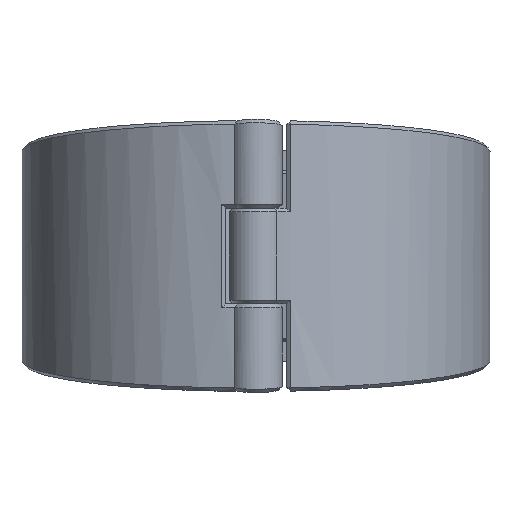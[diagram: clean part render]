
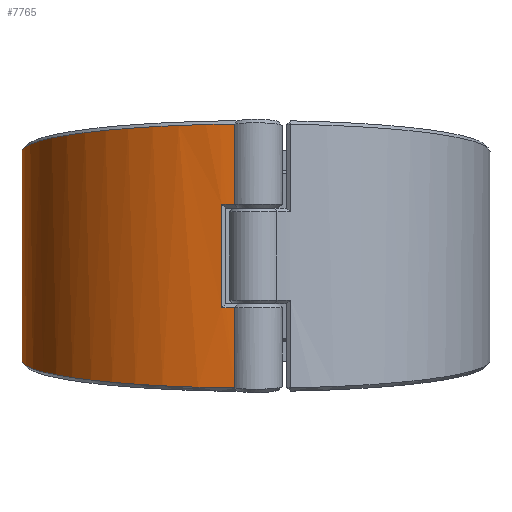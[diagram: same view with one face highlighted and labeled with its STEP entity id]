
A CAD part, front view. The second image highlights one B-rep face of the part: STEP entity #7765.
In plain terms, the highlighted cylindrical face has radius 123 mm (diameter 246 mm), a partial arc.
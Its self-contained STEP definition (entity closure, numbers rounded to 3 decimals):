
#263=CYLINDRICAL_SURFACE('',#8320,123.);
#584=FACE_OUTER_BOUND('',#1104,.T.);
#1104=EDGE_LOOP('',(#5280,#5281,#5282,#5283,#5284,#5285,#5286,#5287,#5288,
#5289,#5290,#5291));
#1644=B_SPLINE_CURVE_WITH_KNOTS('',3,(#11843,#11844,#11845,#11846),
 .UNSPECIFIED.,.F.,.F.,(4,4),(-0.001,0.),.UNSPECIFIED.);
#1645=B_SPLINE_CURVE_WITH_KNOTS('',3,(#11848,#11849,#11850,#11851),
 .UNSPECIFIED.,.F.,.F.,(4,4),(-3.052,-3.052),
 .UNSPECIFIED.);
#1646=B_SPLINE_CURVE_WITH_KNOTS('',3,(#11853,#11854,#11855,#11856,#11857,
#11858,#11859,#11860,#11861,#11862),.UNSPECIFIED.,.F.,.F.,(4,1,1,1,1,1,
1,4),(0.317,0.663,1.062,1.461,
1.861,2.26,2.66,3.052),
 .UNSPECIFIED.);
#1647=B_SPLINE_CURVE_WITH_KNOTS('',3,(#11866,#11867,#11868,#11869,#11870,
#11871,#11872,#11873,#11874,#11875),.UNSPECIFIED.,.F.,.F.,(4,1,1,1,1,1,
1,4),(-3.052,-2.66,-2.26,-1.861,
-1.461,-1.062,-0.663,-0.317),
 .UNSPECIFIED.);
#1648=B_SPLINE_CURVE_WITH_KNOTS('',3,(#11877,#11878,#11879,#11880),
 .UNSPECIFIED.,.F.,.F.,(4,4),(3.052,3.052),
 .UNSPECIFIED.);
#1649=B_SPLINE_CURVE_WITH_KNOTS('',3,(#11882,#11883,#11884,#11885),
 .UNSPECIFIED.,.F.,.F.,(4,4),(-0.354,-0.353),
 .UNSPECIFIED.);
#1921=LINE('',#11777,#2291);
#1927=LINE('',#11841,#2297);
#1928=LINE('',#11864,#2298);
#1929=LINE('',#11886,#2299);
#2291=VECTOR('',#9336,10.);
#2297=VECTOR('',#9382,10.);
#2298=VECTOR('',#9383,10.);
#2299=VECTOR('',#9384,10.);
#2666=CIRCLE('',#8310,123.);
#2669=CIRCLE('',#8315,123.);
#3229=VERTEX_POINT('',#11771);
#3230=VERTEX_POINT('',#11776);
#3236=VERTEX_POINT('',#11797);
#3239=VERTEX_POINT('',#11818);
#3243=VERTEX_POINT('',#11840);
#3244=VERTEX_POINT('',#11842);
#3245=VERTEX_POINT('',#11847);
#3246=VERTEX_POINT('',#11852);
#3247=VERTEX_POINT('',#11863);
#3248=VERTEX_POINT('',#11865);
#3249=VERTEX_POINT('',#11876);
#3250=VERTEX_POINT('',#11881);
#3984=EDGE_CURVE('',#3229,#3230,#1921,.T.);
#3997=EDGE_CURVE('',#3236,#3229,#2666,.T.);
#4002=EDGE_CURVE('',#3230,#3239,#2669,.T.);
#4008=EDGE_CURVE('',#3243,#3236,#1927,.T.);
#4009=EDGE_CURVE('',#3244,#3243,#1644,.T.);
#4010=EDGE_CURVE('',#3244,#3245,#1645,.T.);
#4011=EDGE_CURVE('',#3246,#3245,#1646,.T.);
#4012=EDGE_CURVE('',#3247,#3246,#1928,.T.);
#4013=EDGE_CURVE('',#3248,#3247,#1647,.T.);
#4014=EDGE_CURVE('',#3248,#3249,#1648,.T.);
#4015=EDGE_CURVE('',#3250,#3249,#1649,.T.);
#4016=EDGE_CURVE('',#3239,#3250,#1929,.T.);
#5280=ORIENTED_EDGE('',*,*,#4002,.F.);
#5281=ORIENTED_EDGE('',*,*,#3984,.F.);
#5282=ORIENTED_EDGE('',*,*,#3997,.F.);
#5283=ORIENTED_EDGE('',*,*,#4008,.F.);
#5284=ORIENTED_EDGE('',*,*,#4009,.F.);
#5285=ORIENTED_EDGE('',*,*,#4010,.T.);
#5286=ORIENTED_EDGE('',*,*,#4011,.F.);
#5287=ORIENTED_EDGE('',*,*,#4012,.F.);
#5288=ORIENTED_EDGE('',*,*,#4013,.F.);
#5289=ORIENTED_EDGE('',*,*,#4014,.T.);
#5290=ORIENTED_EDGE('',*,*,#4015,.F.);
#5291=ORIENTED_EDGE('',*,*,#4016,.F.);
#7765=ADVANCED_FACE('',(#584),#263,.T.);
#8310=AXIS2_PLACEMENT_3D('',#11813,#9358,#9359);
#8315=AXIS2_PLACEMENT_3D('',#11827,#9368,#9369);
#8320=AXIS2_PLACEMENT_3D('',#11839,#9380,#9381);
#9336=DIRECTION('',(0.,0.,-1.));
#9358=DIRECTION('center_axis',(0.,0.,-1.));
#9359=DIRECTION('ref_axis',(0.312,-0.95,0.));
#9368=DIRECTION('center_axis',(0.,0.,1.));
#9369=DIRECTION('ref_axis',(0.312,-0.95,0.));
#9380=DIRECTION('center_axis',(0.,0.,1.));
#9381=DIRECTION('ref_axis',(-0.312,0.95,0.));
#9382=DIRECTION('',(0.,0.,-1.));
#9383=DIRECTION('',(0.,0.,1.));
#9384=DIRECTION('',(0.,0.,-1.));
#11771=CARTESIAN_POINT('',(-18.081,-121.664,27.2));
#11776=CARTESIAN_POINT('',(-18.081,-121.664,-27.2));
#11777=CARTESIAN_POINT('',(-18.081,-121.664,0.));
#11797=CARTESIAN_POINT('',(-11.04,-122.504,27.2));
#11813=CARTESIAN_POINT('Origin',(0.,0.,27.2));
#11818=CARTESIAN_POINT('',(-11.04,-122.504,-27.2));
#11827=CARTESIAN_POINT('Origin',(0.,0.,-27.2));
#11839=CARTESIAN_POINT('Origin',(0.,0.,0.));
#11840=CARTESIAN_POINT('',(-11.04,-122.504,69.354));
#11841=CARTESIAN_POINT('',(-11.04,-122.504,0.));
#11842=CARTESIAN_POINT('',(-11.029,-122.505,69.363));
#11843=CARTESIAN_POINT('Ctrl Pts',(-11.029,-122.505,
69.363));
#11844=CARTESIAN_POINT('Ctrl Pts',(-11.033,-122.504,
69.36));
#11845=CARTESIAN_POINT('Ctrl Pts',(-11.037,-122.504,
69.357));
#11846=CARTESIAN_POINT('Ctrl Pts',(-11.04,-122.504,69.354));
#11847=CARTESIAN_POINT('',(-11.04,-122.504,69.363));
#11848=CARTESIAN_POINT('Ctrl Pts',(-11.029,-122.505,
69.363));
#11849=CARTESIAN_POINT('Ctrl Pts',(-11.033,-122.504,
69.363));
#11850=CARTESIAN_POINT('Ctrl Pts',(-11.037,-122.504,
69.363));
#11851=CARTESIAN_POINT('Ctrl Pts',(-11.04,-122.503,
69.363));
#11852=CARTESIAN_POINT('',(-38.407,116.85,41.199));
#11853=CARTESIAN_POINT('Ctrl Pts',(-38.406,116.848,41.199));
#11854=CARTESIAN_POINT('Ctrl Pts',(-51.889,112.41,41.72));
#11855=CARTESIAN_POINT('Ctrl Pts',(-79.291,97.79,43.437));
#11856=CARTESIAN_POINT('Ctrl Pts',(-110.437,61.349,47.719));
#11857=CARTESIAN_POINT('Ctrl Pts',(-125.586,13.54,53.341));
#11858=CARTESIAN_POINT('Ctrl Pts',(-120.976,-36.362,
59.214));
#11859=CARTESIAN_POINT('Ctrl Pts',(-97.326,-80.503,
64.412));
#11860=CARTESIAN_POINT('Ctrl Pts',(-58.677,-111.784,
68.099));
#11861=CARTESIAN_POINT('Ctrl Pts',(-27.006,-121.063,69.193));
#11862=CARTESIAN_POINT('Ctrl Pts',(-11.04,-122.503,69.363));
#11863=CARTESIAN_POINT('',(-38.407,116.85,-41.199));
#11864=CARTESIAN_POINT('',(-38.407,116.85,0.));
#11865=CARTESIAN_POINT('',(-11.04,-122.504,-69.363));
#11866=CARTESIAN_POINT('Ctrl Pts',(-11.04,-122.503,
-69.363));
#11867=CARTESIAN_POINT('Ctrl Pts',(-27.006,-121.063,
-69.193));
#11868=CARTESIAN_POINT('Ctrl Pts',(-58.671,-111.778,
-68.098));
#11869=CARTESIAN_POINT('Ctrl Pts',(-97.336,-80.511,
-64.413));
#11870=CARTESIAN_POINT('Ctrl Pts',(-120.964,-36.358,
-59.213));
#11871=CARTESIAN_POINT('Ctrl Pts',(-125.599,13.539,-53.341));
#11872=CARTESIAN_POINT('Ctrl Pts',(-110.43,61.348,-47.719));
#11873=CARTESIAN_POINT('Ctrl Pts',(-79.292,97.79,-43.437));
#11874=CARTESIAN_POINT('Ctrl Pts',(-51.889,112.41,-41.72));
#11875=CARTESIAN_POINT('Ctrl Pts',(-38.406,116.848,-41.199));
#11876=CARTESIAN_POINT('',(-11.029,-122.505,-69.363));
#11877=CARTESIAN_POINT('Ctrl Pts',(-11.04,-122.503,
-69.363));
#11878=CARTESIAN_POINT('Ctrl Pts',(-11.037,-122.504,-69.363));
#11879=CARTESIAN_POINT('Ctrl Pts',(-11.033,-122.504,
-69.363));
#11880=CARTESIAN_POINT('Ctrl Pts',(-11.029,-122.505,-69.363));
#11881=CARTESIAN_POINT('',(-11.04,-122.504,-69.354));
#11882=CARTESIAN_POINT('Ctrl Pts',(-11.04,-122.503,-69.354));
#11883=CARTESIAN_POINT('Ctrl Pts',(-11.036,-122.503,
-69.357));
#11884=CARTESIAN_POINT('Ctrl Pts',(-11.032,-122.504,
-69.36));
#11885=CARTESIAN_POINT('Ctrl Pts',(-11.028,-122.504,
-69.363));
#11886=CARTESIAN_POINT('',(-11.04,-122.504,0.));
